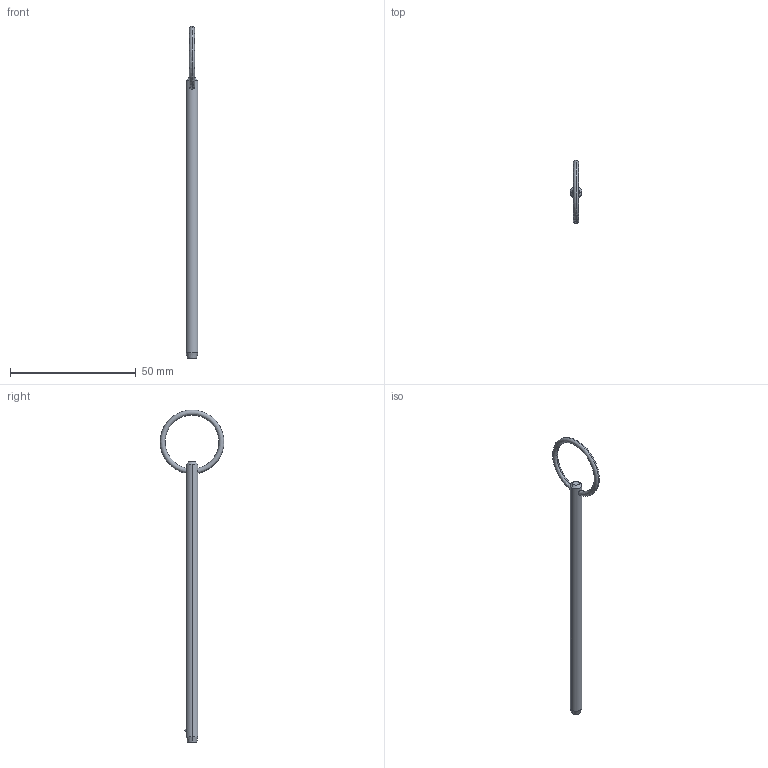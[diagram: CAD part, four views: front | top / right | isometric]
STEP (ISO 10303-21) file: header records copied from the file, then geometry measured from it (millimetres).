
FILE_DESCRIPTION (( 'STEP AP203' ), '1' );
FILE_NAME ('P1250.018-400.step', '2019-07-29T19:37:50', ( '' ), ( '' ), 'SwSTEP 2.0', 'SolidWorks 2017', '' );
FILE_SCHEMA (( 'CONFIG_CONTROL_DESIGN' ));
Length unit declared in the file: millimetre
Products named in the file (1): P1250.018-400
Bounding box: 4.76 x 25.4 x 132.08 mm (x, y, z)
Volume: 2185.3 mm3; surface area: 2109.4 mm2
Topology: 1 solids, 1 shells, 12 faces, 28 edges, 17 vertices
Faces by surface type: cone 4, torus 2, sphere 2, cylinder 2, plane 2
Entity records: 471 total; most frequent: CARTESIAN_POINT 138, DIRECTION 56, ORIENTED_EDGE 48, AXIS2_PLACEMENT_3D 25, EDGE_CURVE 24, EDGE_LOOP 15, VERTEX_POINT 15, ADVANCED_FACE 12
